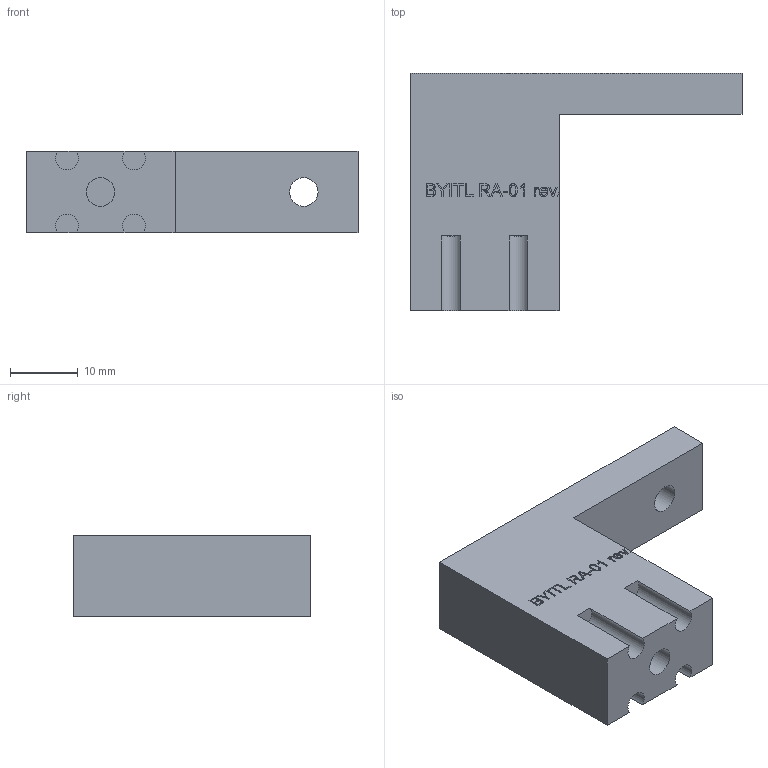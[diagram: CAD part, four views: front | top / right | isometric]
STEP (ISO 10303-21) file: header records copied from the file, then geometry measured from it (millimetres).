
FILE_DESCRIPTION(('Open CASCADE Model'),'2;1');
FILE_NAME('Open CASCADE Shape Model','2026-07-25T17:39:13',('Author'),( 'Open CASCADE'),'Open CASCADE STEP processor 7.9','build123d', 'Unknown');
FILE_SCHEMA(('AUTOMOTIVE_DESIGN { 1 0 10303 214 1 1 1 1 }'));
Length unit declared in the file: millimetre
Products named in the file (2): =>[0:1:1:2]; COMPOUND
Assembly tree (1 placements, depth 2):
  =>[0:1:1:2]
    COMPOUND
Bounding box: 49 x 35 x 12 mm (x, y, z)
Volume: 10599.3 mm3; surface area: 4320.9 mm2
Topology: 1 solids, 1 shells, 218 faces, 588 edges, 392 vertices
Faces by surface type: plane 118, extrusion 94, cylinder 6
Full cylindrical faces by diameter (mm): 4.2 x2
Entity records: 15617 total; most frequent: CARTESIAN_POINT 4978, DIRECTION 1443, ORIENTED_EDGE 1176, PCURVE 1176, DEFINITIONAL_REPRESENTATION 1176, VECTOR 1162, LINE 1068, B_SPLINE_CURVE_WITH_KNOTS 766
